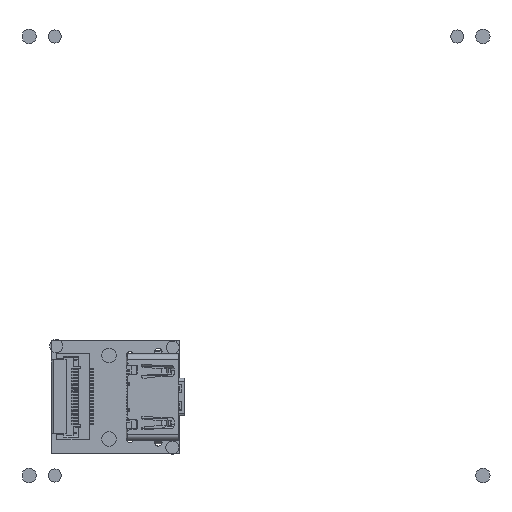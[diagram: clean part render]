
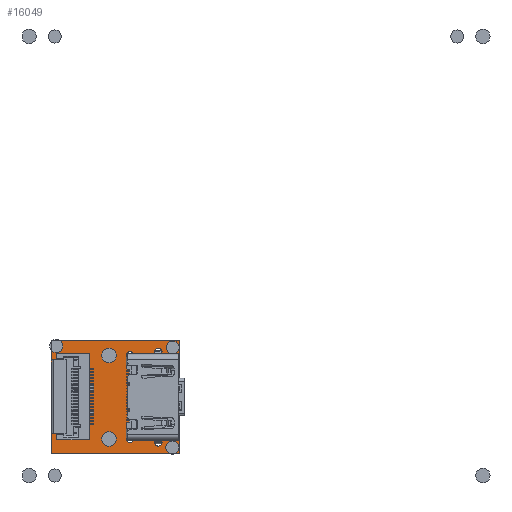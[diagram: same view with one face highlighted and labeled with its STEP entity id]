
A CAD part, top view. The second image highlights one B-rep face of the part: STEP entity #16049.
In plain terms, the highlighted planar face has unit normal (0, 0, 1).
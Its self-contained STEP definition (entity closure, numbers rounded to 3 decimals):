
#2686=CIRCLE($,#9931,0.648);
#2687=CIRCLE($,#9932,0.648);
#2690=CIRCLE($,#9937,0.648);
#2691=CIRCLE($,#9938,0.648);
#2694=CIRCLE($,#9943,0.648);
#2695=CIRCLE($,#9944,0.648);
#2698=CIRCLE($,#9949,0.648);
#2699=CIRCLE($,#9950,0.648);
#2702=CIRCLE($,#9955,1.194);
#2703=CIRCLE($,#9956,1.194);
#2706=CIRCLE($,#9961,1.194);
#2707=CIRCLE($,#9962,1.194);
#4075=FACE_OUTER_BOUND($,#6951,.F.);
#4081=FACE_OUTER_BOUND($,#6957,.T.);
#4085=FACE_OUTER_BOUND($,#6961,.T.);
#4089=FACE_OUTER_BOUND($,#6965,.T.);
#4093=FACE_OUTER_BOUND($,#6969,.T.);
#4097=FACE_OUTER_BOUND($,#6973,.T.);
#4101=FACE_OUTER_BOUND($,#6977,.T.);
#6951=EDGE_LOOP($,(#18913,#18914,#18915,#18916));
#6957=EDGE_LOOP($,(#18937,#18938));
#6961=EDGE_LOOP($,(#18949,#18950));
#6965=EDGE_LOOP($,(#18961,#18962));
#6969=EDGE_LOOP($,(#18973,#18974));
#6973=EDGE_LOOP($,(#18985,#18986));
#6977=EDGE_LOOP($,(#18997,#18998));
#9925=AXIS2_PLACEMENT_3D($,#80168,#64685,$);
#9931=AXIS2_PLACEMENT_3D($,#80180,#64685,$);
#9932=AXIS2_PLACEMENT_3D($,#80181,#64685,$);
#9937=AXIS2_PLACEMENT_3D($,#80192,#64685,$);
#9938=AXIS2_PLACEMENT_3D($,#80193,#64685,$);
#9943=AXIS2_PLACEMENT_3D($,#80204,#64685,$);
#9944=AXIS2_PLACEMENT_3D($,#80205,#64685,$);
#9949=AXIS2_PLACEMENT_3D($,#80216,#64685,$);
#9950=AXIS2_PLACEMENT_3D($,#80217,#64685,$);
#9955=AXIS2_PLACEMENT_3D($,#80228,#64685,$);
#9956=AXIS2_PLACEMENT_3D($,#80229,#64685,$);
#9961=AXIS2_PLACEMENT_3D($,#80240,#64685,$);
#9962=AXIS2_PLACEMENT_3D($,#80241,#64685,$);
#13958=PLANE($,#9925);
#16049=ADVANCED_FACE($,(#4075,#4081,#4085,#4089,#4093,#4097,#4101),#13958,
 .T.);
#18913=ORIENTED_EDGE($,*,*,#35583,.T.);
#18914=ORIENTED_EDGE($,*,*,#35584,.T.);
#18915=ORIENTED_EDGE($,*,*,#35585,.T.);
#18916=ORIENTED_EDGE($,*,*,#35586,.T.);
#18937=ORIENTED_EDGE($,*,*,#35596,.T.);
#18938=ORIENTED_EDGE($,*,*,#35597,.T.);
#18949=ORIENTED_EDGE($,*,*,#35603,.T.);
#18950=ORIENTED_EDGE($,*,*,#35604,.T.);
#18961=ORIENTED_EDGE($,*,*,#35610,.T.);
#18962=ORIENTED_EDGE($,*,*,#35611,.T.);
#18973=ORIENTED_EDGE($,*,*,#35617,.T.);
#18974=ORIENTED_EDGE($,*,*,#35618,.T.);
#18985=ORIENTED_EDGE($,*,*,#35624,.T.);
#18986=ORIENTED_EDGE($,*,*,#35625,.T.);
#18997=ORIENTED_EDGE($,*,*,#35631,.T.);
#18998=ORIENTED_EDGE($,*,*,#35632,.T.);
#35583=EDGE_CURVE($,#59096,#59097,#51512,.T.);
#35584=EDGE_CURVE($,#59097,#59098,#51513,.T.);
#35585=EDGE_CURVE($,#59098,#59099,#51514,.T.);
#35586=EDGE_CURVE($,#59099,#59096,#51515,.T.);
#35596=EDGE_CURVE($,#59106,#59107,#2686,.F.);
#35597=EDGE_CURVE($,#59107,#59106,#2687,.F.);
#35603=EDGE_CURVE($,#59112,#59113,#2690,.F.);
#35604=EDGE_CURVE($,#59113,#59112,#2691,.F.);
#35610=EDGE_CURVE($,#59118,#59119,#2694,.F.);
#35611=EDGE_CURVE($,#59119,#59118,#2695,.F.);
#35617=EDGE_CURVE($,#59124,#59125,#2698,.F.);
#35618=EDGE_CURVE($,#59125,#59124,#2699,.F.);
#35624=EDGE_CURVE($,#59130,#59131,#2702,.F.);
#35625=EDGE_CURVE($,#59131,#59130,#2703,.F.);
#35631=EDGE_CURVE($,#59136,#59137,#2706,.F.);
#35632=EDGE_CURVE($,#59137,#59136,#2707,.F.);
#43928=VECTOR($,#64688,19.558);
#43929=VECTOR($,#64689,22.225);
#43930=VECTOR($,#64690,19.558);
#43931=VECTOR($,#64691,22.225);
#51512=LINE($,#80167,#43928);
#51513=LINE($,#80168,#43929);
#51514=LINE($,#80169,#43930);
#51515=LINE($,#80170,#43931);
#59096=VERTEX_POINT($,#80167);
#59097=VERTEX_POINT($,#80168);
#59098=VERTEX_POINT($,#80169);
#59099=VERTEX_POINT($,#80170);
#59106=VERTEX_POINT($,#80177);
#59107=VERTEX_POINT($,#80178);
#59112=VERTEX_POINT($,#80189);
#59113=VERTEX_POINT($,#80190);
#59118=VERTEX_POINT($,#80201);
#59119=VERTEX_POINT($,#80202);
#59124=VERTEX_POINT($,#80213);
#59125=VERTEX_POINT($,#80214);
#59130=VERTEX_POINT($,#80225);
#59131=VERTEX_POINT($,#80226);
#59136=VERTEX_POINT($,#80237);
#59137=VERTEX_POINT($,#80238);
#64685=DIRECTION($,(0.,0.,1.));
#64688=DIRECTION($,(0.,1.,0.));
#64689=DIRECTION($,(1.,0.,0.));
#64690=DIRECTION($,(0.,-1.,0.));
#64691=DIRECTION($,(-1.,0.,0.));
#80167=CARTESIAN_POINT('',(0.,0.,0.));
#80168=CARTESIAN_POINT('',(0.,19.558,0.));
#80169=CARTESIAN_POINT('',(22.225,19.558,0.));
#80170=CARTESIAN_POINT('',(22.225,0.,0.));
#80177=CARTESIAN_POINT('',(19.248,1.929,0.));
#80178=CARTESIAN_POINT('',(17.952,1.929,0.));
#80180=CARTESIAN_POINT('',(18.6,1.929,0.));
#80181=CARTESIAN_POINT('',(18.6,1.929,0.));
#80189=CARTESIAN_POINT('',(19.248,17.629,0.));
#80190=CARTESIAN_POINT('',(17.952,17.629,0.));
#80192=CARTESIAN_POINT('',(18.6,17.629,0.));
#80193=CARTESIAN_POINT('',(18.6,17.629,0.));
#80201=CARTESIAN_POINT('',(14.348,2.529,0.));
#80202=CARTESIAN_POINT('',(13.052,2.529,0.));
#80204=CARTESIAN_POINT('',(13.7,2.529,0.));
#80205=CARTESIAN_POINT('',(13.7,2.529,0.));
#80213=CARTESIAN_POINT('',(14.348,17.029,0.));
#80214=CARTESIAN_POINT('',(13.052,17.029,0.));
#80216=CARTESIAN_POINT('',(13.7,17.029,0.));
#80217=CARTESIAN_POINT('',(13.7,17.029,0.));
#80225=CARTESIAN_POINT('',(11.227,2.54,0.));
#80226=CARTESIAN_POINT('',(8.839,2.54,0.));
#80228=CARTESIAN_POINT('',(10.033,2.54,0.));
#80229=CARTESIAN_POINT('',(10.033,2.54,0.));
#80237=CARTESIAN_POINT('',(11.227,17.018,0.));
#80238=CARTESIAN_POINT('',(8.839,17.018,0.));
#80240=CARTESIAN_POINT('',(10.033,17.018,0.));
#80241=CARTESIAN_POINT('',(10.033,17.018,0.));
